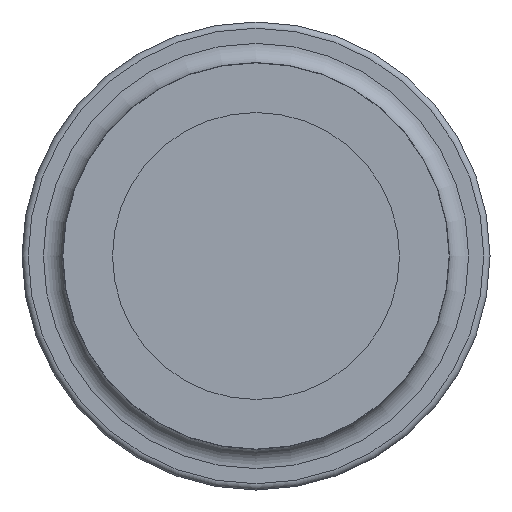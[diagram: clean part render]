
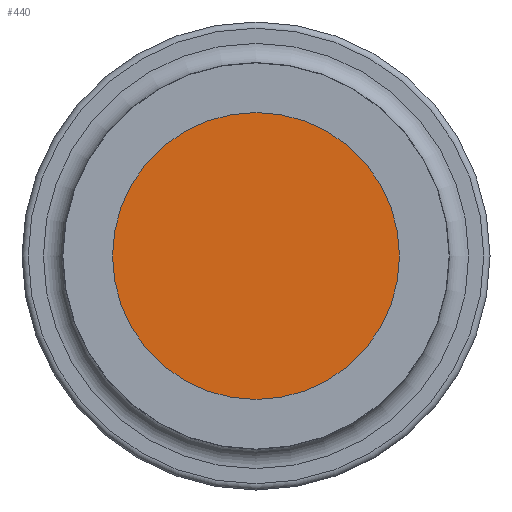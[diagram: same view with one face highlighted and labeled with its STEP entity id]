
A CAD part, left-side view. The second image highlights one B-rep face of the part: STEP entity #440.
In plain terms, the highlighted planar face has unit normal (-1, 0, 0).
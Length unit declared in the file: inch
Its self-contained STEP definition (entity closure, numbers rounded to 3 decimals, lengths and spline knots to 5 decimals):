
#440 = ADVANCED_FACE( '', ( #999 ), #1000, .T. );
#999 = FACE_OUTER_BOUND( '', #2126, .T. );
#1000 = PLANE( '', #2127 );
#2126 = EDGE_LOOP( '', ( #3771 ) );
#2127 = AXIS2_PLACEMENT_3D( '', #3772, #3773, #3774 );
#3771 = ORIENTED_EDGE( '', *, *, #5175, .T. );
#3772 = CARTESIAN_POINT( '', ( -0.03708, 0., 0. ) );
#3773 = DIRECTION( '', ( -1., 0., 0. ) );
#3774 = DIRECTION( '', ( 0., 0., 1. ) );
#5175 = EDGE_CURVE( '', #6182, #6182, #6183, .T. );
#6182 = VERTEX_POINT( '', #8113 );
#6183 = CIRCLE( '', #8114, 0.23 );
#8113 = CARTESIAN_POINT( '', ( -0.03708, 0., 0.23 ) );
#8114 = AXIS2_PLACEMENT_3D( '', #9048, #9049, #9050 );
#9048 = CARTESIAN_POINT( '', ( -0.03708, 0., 0. ) );
#9049 = DIRECTION( '', ( -1., 0., 0. ) );
#9050 = DIRECTION( '', ( 0., 0., 1. ) );
